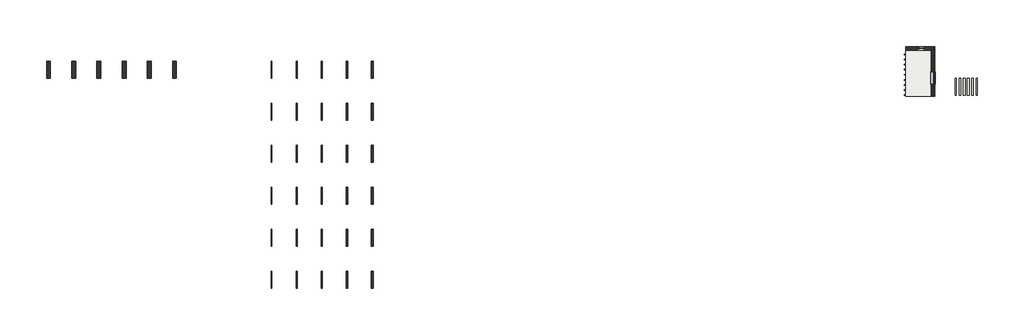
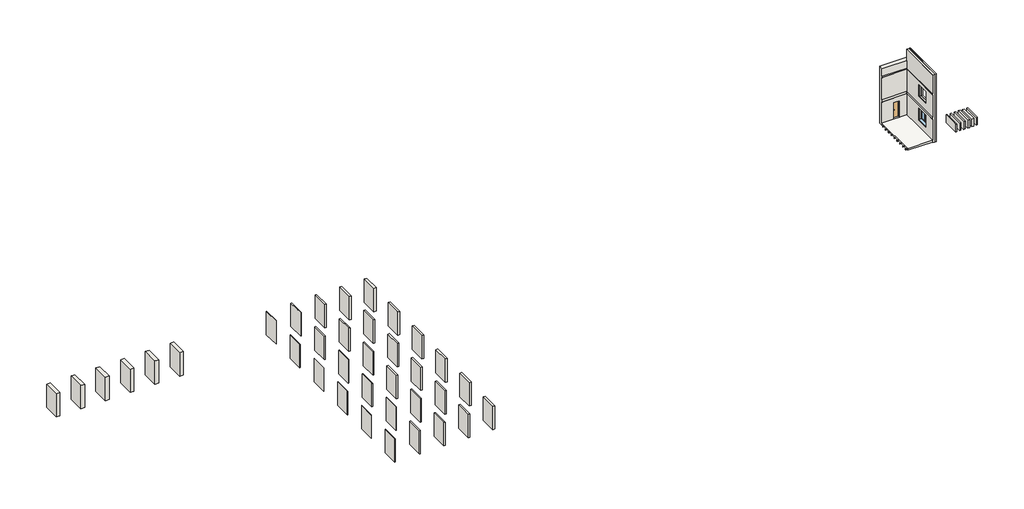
# One storey: 44 walls, 9 beams, 2 windows, 1 door, 1 slab.
"""IFC4 building model written with IfcOpenShell, lengths in millimetres."""

from ifc_helpers import new_model, si_unit, frame, origin, origin_with_axes, place, context, project, spatial, polyline, outline, extrude, faceted_brep, transform, mapped, element, save
from components import beam_0ae76daf, door_09ff0dbc, window_53c761ac, window_832654c1

model = new_model("IFC4")

# Units and contexts
model_context = context("Model", 3, world=origin())
ifc_project = project(units=[si_unit("LENGTHUNIT", "METRE", prefix="MILLI")], contexts=[model_context])

# Site, building, storey
site = spatial("IfcSite", under=ifc_project)
building = spatial("IfcBuilding", under=site)
storey = spatial("IfcBuildingStorey", under=building, Name="Этаж 1", Elevation=0.0)

# Beams
placement = place(None, origin())
beam_shape = beam_0ae76daf(model_context)
element("IfcBeam", 1, ObjectType="Мерные пиломатериалы : 50х130", at=placement, inside=storey, context=model_context, shape_type="MappedRepresentation", body=[
    mapped(beam_shape, transform((36792.721519, 4771.7721519, -115.0), x_axis=(1.0, 0.0, 0.0), y_axis=(0.0, 1.0, 0.0), z_axis=(0.0, 0.0, 1.0))),
])
element("IfcBeam", 2, ObjectType="Мерные пиломатериалы : 50х130", at=placement, inside=storey, context=model_context, shape_type="MappedRepresentation", body=[
    mapped(beam_shape, transform((36792.721519, 4171.7721519, -115.0), x_axis=(1.0, 0.0, 0.0), y_axis=(0.0, 1.0, 0.0), z_axis=(0.0, 0.0, 1.0))),
])
element("IfcBeam", 3, ObjectType="Мерные пиломатериалы : 50х130", at=placement, inside=storey, context=model_context, shape_type="MappedRepresentation", body=[
    mapped(beam_shape, transform((36792.721519, 3571.7721519, -115.0), x_axis=(1.0, 0.0, 0.0), y_axis=(0.0, 1.0, 0.0), z_axis=(0.0, 0.0, 1.0))),
])
element("IfcBeam", 4, ObjectType="Мерные пиломатериалы : 50х130", at=placement, inside=storey, context=model_context, shape_type="MappedRepresentation", body=[
    mapped(beam_shape, transform((36792.721519, 2971.7721519, -115.0), x_axis=(1.0, 0.0, 0.0), y_axis=(0.0, 1.0, 0.0), z_axis=(0.0, 0.0, 1.0))),
])
element("IfcBeam", 5, ObjectType="Мерные пиломатериалы : 50х130", at=placement, inside=storey, context=model_context, shape_type="MappedRepresentation", body=[
    mapped(beam_shape, transform((36792.721519, 2371.7721519, -115.0), x_axis=(1.0, 0.0, 0.0), y_axis=(0.0, 1.0, 0.0), z_axis=(0.0, 0.0, 1.0))),
])
element("IfcBeam", 6, ObjectType="Мерные пиломатериалы : 50х130", at=placement, inside=storey, context=model_context, shape_type="MappedRepresentation", body=[
    mapped(beam_shape, transform((36792.721519, 1771.7721519, -115.0), x_axis=(1.0, 0.0, 0.0), y_axis=(0.0, 1.0, 0.0), z_axis=(0.0, 0.0, 1.0))),
])
element("IfcBeam", 7, ObjectType="Мерные пиломатериалы : 50х130", at=placement, inside=storey, context=model_context, shape_type="MappedRepresentation", body=[
    mapped(beam_shape, transform((36792.721519, 1171.7721519, -115.0), x_axis=(1.0, 0.0, 0.0), y_axis=(0.0, 1.0, 0.0), z_axis=(0.0, 0.0, 1.0))),
])
element("IfcBeam", 8, ObjectType="Мерные пиломатериалы : 50х130", at=placement, inside=storey, context=model_context, shape_type="MappedRepresentation", body=[
    mapped(beam_shape, transform((36792.721519, 571.7721519, -115.0), x_axis=(1.0, 0.0, 0.0), y_axis=(0.0, 1.0, 0.0), z_axis=(0.0, 0.0, 1.0))),
])
element("IfcBeam", 9, ObjectType="Мерные пиломатериалы : 50х130", at=placement, inside=storey, context=model_context, shape_type="MappedRepresentation", body=[
    mapped(beam_shape, transform((36792.721519, -28.2278481, -115.0), x_axis=(1.0, 0.0, 0.0), y_axis=(0.0, 1.0, 0.0), z_axis=(0.0, 0.0, 1.0))),
])

# Door
door_shape = door_09ff0dbc(model_context)
element("IfcDoor", 10, ObjectType="Дверь однопольная : дерев.внутр.глух 8х21 Л", at=placement, inside=storey, context=model_context, shape_type="MappedRepresentation", body=[
    mapped(door_shape, transform((37147.721519, 5499.2721519, 0.0), x_axis=(1.0, 0.0, 0.0), y_axis=(0.0, 1.0, 0.0), z_axis=(0.0, 0.0, 1.0))),
])

# Slab
element("IfcSlab", 11, ObjectType="Пол по деревянным лагам по грунту 222мм (Изоляция ЭКОВЕР ЛАЙТ 40 100мм)", at=placement, inside=storey, context=model_context, shape_type="Brep", body=[
    faceted_brep([(35367.721519, 5291.7721519, -222.0), (38417.721519, 5291.7721519, -222.0), (38417.721519, 5271.7721519, -222.0), (38417.721519, -168.2278481, -222.0), (38397.721519, -168.2278481, -222.0), (35367.721519, -168.2278481, -222.0), (35367.721519, 5271.7721519, -222.0), (35367.721519, 5291.7721519, 0.0), (35367.721519, 5271.7721519, 0.0), (35367.721519, -168.2278481, 0.0), (38397.721519, -168.2278481, 0.0), (38417.721519, -168.2278481, 0.0), (38417.721519, 5271.7721519, 0.0), (38417.721519, 5291.7721519, 0.0), (37547.721519, 5291.7721519, 0.0), (36747.721519, 5291.7721519, 0.0)], [[[0, 1, 2, 3, 4, 5, 6]], [[7, 8, 9, 10, 11, 12, 13, 14, 15]], [[1, 0, 7, 15, 14, 13]], [[3, 2, 1, 13, 12, 11]], [[5, 4, 3, 11, 10, 9]], [[0, 6, 5, 9, 8, 7]]]),
])

# Walls
element("IfcWall", 12, ObjectType="Утеплитель 50мм (ЭКОВЕР ЛАЙТ  30)", at=placement, inside=storey, context=model_context, shape_type="SweptSolid", body=[
    extrude(outline(polyline([(-40107.278481, 1971.7721519), (-40107.278481, 3971.7721519), (-40057.278481, 3971.7721519), (-40057.278481, 1971.7721519), (-40107.278481, 1971.7721519)])), origin_with_axes(), (0.0, 0.0, 1.0), 3000.0),
])
element("IfcWall", 13, ObjectType="Фасадная система с отделкой кирпичем 455мм (Изоляция ЭКОВЕР ЛАЙТ 45 50мм)", at=placement, inside=storey, context=model_context, shape_type="Brep", body=[
    faceted_brep([(38852.721519, 5726.7721519, -300.0), (35367.721519, 5726.7721519, -300.0), (35367.721519, 5726.7721519, 7000.0), (38852.721519, 5726.7721519, 7000.0), (37547.721519, 5726.7721519, 2100.0), (36747.721519, 5726.7721519, 2100.0), (36747.721519, 5726.7721519, 0.0), (37547.721519, 5726.7721519, 0.0), (35367.721519, 5271.7721519, -300.0), (38397.721519, 5271.7721519, -300.0), (38852.721519, 5271.7721519, -300.0), (38852.721519, 5271.7721519, 7000.0), (35367.721519, 5271.7721519, 7000.0), (35367.721519, 5271.7721519, 6000.0), (38397.721519, 5271.7721519, 6000.0), (38417.721519, 5271.7721519, 6000.0), (38417.721519, 5271.7721519, 5830.0), (38397.721519, 5271.7721519, 5830.0), (35367.721519, 5271.7721519, 5830.0), (35367.721519, 5271.7721519, 3000.0), (38397.721519, 5271.7721519, 3000.0), (38417.721519, 5271.7721519, 3000.0), (38417.721519, 5271.7721519, 2680.0), (38397.721519, 5271.7721519, 2680.0), (35367.721519, 5271.7721519, 2680.0), (35367.721519, 5271.7721519, 0.0), (36747.721519, 5271.7721519, 0.0), (36747.721519, 5271.7721519, 2100.0), (37547.721519, 5271.7721519, 2100.0), (37547.721519, 5271.7721519, 0.0), (38397.721519, 5271.7721519, 0.0), (38417.721519, 5271.7721519, 0.0), (38417.721519, 5271.7721519, -222.0), (38397.721519, 5271.7721519, -222.0), (35367.721519, 5271.7721519, -222.0), (38417.721519, 5291.7721519, -222.0), (35367.721519, 5291.7721519, -222.0), (35367.721519, 5291.7721519, 0.0), (36747.721519, 5291.7721519, 0.0), (38417.721519, 5291.7721519, 0.0), (37547.721519, 5291.7721519, 0.0), (38417.721519, 5291.7721519, 2680.0), (35367.721519, 5291.7721519, 2680.0), (35367.721519, 5291.7721519, 3000.0), (38417.721519, 5291.7721519, 3000.0), (38417.721519, 5291.7721519, 5830.0), (35367.721519, 5291.7721519, 5830.0), (35367.721519, 5291.7721519, 6000.0), (38417.721519, 5291.7721519, 6000.0)], [[[0, 1, 2, 3], [4, 5, 6, 7]], [[8, 9, 10, 11, 12, 13, 14, 15, 16, 17, 18, 19, 20, 21, 22, 23, 24, 25, 26, 27, 28, 29, 30, 31, 32, 33, 34]], [[0, 3, 11, 10]], [[35, 36, 34, 33, 32]], [[26, 25, 37, 38]], [[39, 31, 30, 29, 40]], [[36, 35, 39, 40, 38, 37]], [[39, 35, 32, 31]], [[41, 42, 24, 23, 22]], [[43, 44, 21, 20, 19]], [[42, 41, 44, 43]], [[44, 41, 22, 21]], [[45, 46, 18, 17, 16]], [[47, 48, 15, 14, 13]], [[46, 45, 48, 47]], [[48, 45, 16, 15]], [[27, 5, 4, 28]], [[7, 6, 38, 40]], [[5, 27, 26, 38, 6]], [[28, 4, 7, 40, 29]], [[1, 0, 10, 9, 8]], [[2, 1, 8, 34, 36, 37, 25, 24, 42, 43, 19, 18, 46, 47, 13, 12]], [[3, 2, 12, 11]]]),
])
element("IfcWall", 14, ObjectType="Утеплитель 100мм (ЭКОВЕР ЛАЙТ  30)", at=placement, inside=storey, context=model_context, shape_type="SweptSolid", body=[
    extrude(outline(polyline([(-37132.278481, 1971.7721519), (-37132.278481, 3971.7721519), (-37032.278481, 3971.7721519), (-37032.278481, 1971.7721519), (-37132.278481, 1971.7721519)])), origin_with_axes(), (0.0, 0.0, 1.0), 3000.0),
])
element("IfcWall", 15, ObjectType="Утеплитель 150мм (ЭКОВЕР ЛАЙТ  30)", at=placement, inside=storey, context=model_context, shape_type="SweptSolid", body=[
    extrude(outline(polyline([(-34157.278481, 1971.7721519), (-34157.278481, 3971.7721519), (-34007.278481, 3971.7721519), (-34007.278481, 1971.7721519), (-34157.278481, 1971.7721519)])), origin_with_axes(), (0.0, 0.0, 1.0), 3000.0),
])
element("IfcWall", 16, ObjectType="Утеплитель 200мм (ЭКОВЕР ЛАЙТ  30)", at=placement, inside=storey, context=model_context, shape_type="SweptSolid", body=[
    extrude(outline(polyline([(-31182.278481, 1971.7721519), (-31182.278481, 3971.7721519), (-30982.278481, 3971.7721519), (-30982.278481, 1971.7721519), (-31182.278481, 1971.7721519)])), origin_with_axes(), (0.0, 0.0, 1.0), 3000.0),
])
element("IfcWall", 17, ObjectType="Утеплитель 250мм (ЭКОВЕР ЛАЙТ  30)", at=placement, inside=storey, context=model_context, shape_type="SweptSolid", body=[
    extrude(outline(polyline([(-28207.278481, 1971.7721519), (-28207.278481, 3971.7721519), (-27957.278481, 3971.7721519), (-27957.278481, 1971.7721519), (-28207.278481, 1971.7721519)])), origin_with_axes(), (0.0, 0.0, 1.0), 3000.0),
])
element("IfcWall", 18, ObjectType="Утеплитель 50мм (ЭКОВЕР ЛАЙТ  35)", at=placement, inside=storey, context=model_context, shape_type="SweptSolid", body=[
    extrude(outline(polyline([(-40107.278481, -3028.2278481), (-40107.278481, -1028.2278481), (-40057.278481, -1028.2278481), (-40057.278481, -3028.2278481), (-40107.278481, -3028.2278481)])), origin_with_axes(), (0.0, 0.0, 1.0), 3000.0),
])
element("IfcWall", 19, ObjectType="Утеплитель 100мм (ЭКОВЕР ЛАЙТ  35)", at=placement, inside=storey, context=model_context, shape_type="SweptSolid", body=[
    extrude(outline(polyline([(-37132.278481, -3028.2278481), (-37132.278481, -1028.2278481), (-37032.278481, -1028.2278481), (-37032.278481, -3028.2278481), (-37132.278481, -3028.2278481)])), origin_with_axes(), (0.0, 0.0, 1.0), 3000.0),
])
element("IfcWall", 20, ObjectType="Утеплитель 150мм (ЭКОВЕР ЛАЙТ  35)", at=placement, inside=storey, context=model_context, shape_type="SweptSolid", body=[
    extrude(outline(polyline([(-34157.278481, -3028.2278481), (-34157.278481, -1028.2278481), (-34007.278481, -1028.2278481), (-34007.278481, -3028.2278481), (-34157.278481, -3028.2278481)])), origin_with_axes(), (0.0, 0.0, 1.0), 3000.0),
])
element("IfcWall", 21, ObjectType="Утеплитель 200мм (ЭКОВЕР ЛАЙТ  35)", at=placement, inside=storey, context=model_context, shape_type="SweptSolid", body=[
    extrude(outline(polyline([(-31182.278481, -3028.2278481), (-31182.278481, -1028.2278481), (-30982.278481, -1028.2278481), (-30982.278481, -3028.2278481), (-31182.278481, -3028.2278481)])), origin_with_axes(), (0.0, 0.0, 1.0), 3000.0),
])
element("IfcWall", 22, ObjectType="Утеплитель 250мм (ЭКОВЕР ЛАЙТ  35)", at=placement, inside=storey, context=model_context, shape_type="SweptSolid", body=[
    extrude(outline(polyline([(-28207.278481, -3028.2278481), (-28207.278481, -1028.2278481), (-27957.278481, -1028.2278481), (-27957.278481, -3028.2278481), (-28207.278481, -3028.2278481)])), origin_with_axes(), (0.0, 0.0, 1.0), 3000.0),
])
element("IfcWall", 23, ObjectType="Утеплитель 50мм (ЭКОВЕР ЛАЙТ  40)", at=placement, inside=storey, context=model_context, shape_type="SweptSolid", body=[
    extrude(outline(polyline([(-40107.278481, -8028.2278481), (-40107.278481, -6028.2278481), (-40057.278481, -6028.2278481), (-40057.278481, -8028.2278481), (-40107.278481, -8028.2278481)])), origin_with_axes(), (0.0, 0.0, 1.0), 3000.0),
])
element("IfcWall", 24, ObjectType="Утеплитель 100мм (ЭКОВЕР ЛАЙТ  40)", at=placement, inside=storey, context=model_context, shape_type="SweptSolid", body=[
    extrude(outline(polyline([(-37132.278481, -8028.2278481), (-37132.278481, -6028.2278481), (-37032.278481, -6028.2278481), (-37032.278481, -8028.2278481), (-37132.278481, -8028.2278481)])), origin_with_axes(), (0.0, 0.0, 1.0), 3000.0),
])
element("IfcWall", 25, ObjectType="Утеплитель 150мм (ЭКОВЕР ЛАЙТ  40)", at=placement, inside=storey, context=model_context, shape_type="SweptSolid", body=[
    extrude(outline(polyline([(-34157.278481, -8028.2278481), (-34157.278481, -6028.2278481), (-34007.278481, -6028.2278481), (-34007.278481, -8028.2278481), (-34157.278481, -8028.2278481)])), origin_with_axes(), (0.0, 0.0, 1.0), 3000.0),
])
element("IfcWall", 26, ObjectType="Утеплитель 200мм (ЭКОВЕР ЛАЙТ  40)", at=placement, inside=storey, context=model_context, shape_type="SweptSolid", body=[
    extrude(outline(polyline([(-31182.278481, -8028.2278481), (-31182.278481, -6028.2278481), (-30982.278481, -6028.2278481), (-30982.278481, -8028.2278481), (-31182.278481, -8028.2278481)])), origin_with_axes(), (0.0, 0.0, 1.0), 3000.0),
])
element("IfcWall", 27, ObjectType="Утеплитель 250мм (ЭКОВЕР ЛАЙТ  40)", at=placement, inside=storey, context=model_context, shape_type="SweptSolid", body=[
    extrude(outline(polyline([(-28207.278481, -8028.2278481), (-28207.278481, -6028.2278481), (-27957.278481, -6028.2278481), (-27957.278481, -8028.2278481), (-28207.278481, -8028.2278481)])), origin_with_axes(), (0.0, 0.0, 1.0), 3000.0),
])
element("IfcWall", 28, ObjectType="Утеплитель 50мм (ЭКОВЕР ЛАЙТ  45)", at=placement, inside=storey, context=model_context, shape_type="SweptSolid", body=[
    extrude(outline(polyline([(-40107.278481, -13028.2278481), (-40107.278481, -11028.2278481), (-40057.278481, -11028.2278481), (-40057.278481, -13028.2278481), (-40107.278481, -13028.2278481)])), origin_with_axes(), (0.0, 0.0, 1.0), 3000.0),
])
element("IfcWall", 29, ObjectType="Утеплитель 100мм (ЭКОВЕР ЛАЙТ  45)", at=placement, inside=storey, context=model_context, shape_type="SweptSolid", body=[
    extrude(outline(polyline([(-37132.278481, -13028.2278481), (-37132.278481, -11028.2278481), (-37032.278481, -11028.2278481), (-37032.278481, -13028.2278481), (-37132.278481, -13028.2278481)])), origin_with_axes(), (0.0, 0.0, 1.0), 3000.0),
])
element("IfcWall", 30, ObjectType="Утеплитель 150мм (ЭКОВЕР ЛАЙТ  45)", at=placement, inside=storey, context=model_context, shape_type="SweptSolid", body=[
    extrude(outline(polyline([(-34157.278481, -13028.2278481), (-34157.278481, -11028.2278481), (-34007.278481, -11028.2278481), (-34007.278481, -13028.2278481), (-34157.278481, -13028.2278481)])), origin_with_axes(), (0.0, 0.0, 1.0), 3000.0),
])
element("IfcWall", 31, ObjectType="Утеплитель 200мм (ЭКОВЕР ЛАЙТ  45)", at=placement, inside=storey, context=model_context, shape_type="SweptSolid", body=[
    extrude(outline(polyline([(-31182.278481, -13028.2278481), (-31182.278481, -11028.2278481), (-30982.278481, -11028.2278481), (-30982.278481, -13028.2278481), (-31182.278481, -13028.2278481)])), origin_with_axes(), (0.0, 0.0, 1.0), 3000.0),
])
element("IfcWall", 32, ObjectType="Утеплитель 250мм (ЭКОВЕР ЛАЙТ  45)", at=placement, inside=storey, context=model_context, shape_type="SweptSolid", body=[
    extrude(outline(polyline([(-28207.278481, -13028.2278481), (-28207.278481, -11028.2278481), (-27957.278481, -11028.2278481), (-27957.278481, -13028.2278481), (-28207.278481, -13028.2278481)])), origin_with_axes(), (0.0, 0.0, 1.0), 3000.0),
])
element("IfcWall", 33, ObjectType="Утеплитель 50мм (ЭКОВЕР СТАНДАРТ  50)", at=placement, inside=storey, context=model_context, shape_type="SweptSolid", body=[
    extrude(outline(polyline([(-40107.278481, -18028.2278481), (-40107.278481, -16028.2278481), (-40057.278481, -16028.2278481), (-40057.278481, -18028.2278481), (-40107.278481, -18028.2278481)])), origin_with_axes(), (0.0, 0.0, 1.0), 3000.0),
])
element("IfcWall", 34, ObjectType="Утеплитель 100мм (ЭКОВЕР СТАНДАРТ  50)", at=placement, inside=storey, context=model_context, shape_type="SweptSolid", body=[
    extrude(outline(polyline([(-37132.278481, -18028.2278481), (-37132.278481, -16028.2278481), (-37032.278481, -16028.2278481), (-37032.278481, -18028.2278481), (-37132.278481, -18028.2278481)])), origin_with_axes(), (0.0, 0.0, 1.0), 3000.0),
])
element("IfcWall", 35, ObjectType="Утеплитель 150мм (ЭКОВЕР СТАНДАРТ  50)", at=placement, inside=storey, context=model_context, shape_type="SweptSolid", body=[
    extrude(outline(polyline([(-34157.278481, -18028.2278481), (-34157.278481, -16028.2278481), (-34007.278481, -16028.2278481), (-34007.278481, -18028.2278481), (-34157.278481, -18028.2278481)])), origin_with_axes(), (0.0, 0.0, 1.0), 3000.0),
])
element("IfcWall", 36, ObjectType="Утеплитель 200мм (ЭКОВЕР СТАНДАРТ  50)", at=placement, inside=storey, context=model_context, shape_type="SweptSolid", body=[
    extrude(outline(polyline([(-31182.278481, -18028.2278481), (-31182.278481, -16028.2278481), (-30982.278481, -16028.2278481), (-30982.278481, -18028.2278481), (-31182.278481, -18028.2278481)])), origin_with_axes(), (0.0, 0.0, 1.0), 3000.0),
])
element("IfcWall", 37, ObjectType="Утеплитель 250мм (ЭКОВЕР СТАНДАРТ  50)", at=placement, inside=storey, context=model_context, shape_type="SweptSolid", body=[
    extrude(outline(polyline([(-28207.278481, -18028.2278481), (-28207.278481, -16028.2278481), (-27957.278481, -16028.2278481), (-27957.278481, -18028.2278481), (-28207.278481, -18028.2278481)])), origin_with_axes(), (0.0, 0.0, 1.0), 3000.0),
])
element("IfcWall", 38, ObjectType="Утеплитель 50мм (ЭКОВЕР СТАНДАРТ  60)", at=placement, inside=storey, context=model_context, shape_type="SweptSolid", body=[
    extrude(outline(polyline([(-40107.278481, -23028.2278481), (-40107.278481, -21028.2278481), (-40057.278481, -21028.2278481), (-40057.278481, -23028.2278481), (-40107.278481, -23028.2278481)])), origin_with_axes(), (0.0, 0.0, 1.0), 3000.0),
])
element("IfcWall", 39, ObjectType="Утеплитель 100мм (ЭКОВЕР СТАНДАРТ  60)", at=placement, inside=storey, context=model_context, shape_type="SweptSolid", body=[
    extrude(outline(polyline([(-37132.278481, -23028.2278481), (-37132.278481, -21028.2278481), (-37032.278481, -21028.2278481), (-37032.278481, -23028.2278481), (-37132.278481, -23028.2278481)])), origin_with_axes(), (0.0, 0.0, 1.0), 3000.0),
])
element("IfcWall", 40, ObjectType="Утеплитель 150мм (ЭКОВЕР СТАНДАРТ  60)", at=placement, inside=storey, context=model_context, shape_type="SweptSolid", body=[
    extrude(outline(polyline([(-34157.278481, -23028.2278481), (-34157.278481, -21028.2278481), (-34007.278481, -21028.2278481), (-34007.278481, -23028.2278481), (-34157.278481, -23028.2278481)])), origin_with_axes(), (0.0, 0.0, 1.0), 3000.0),
])
element("IfcWall", 41, ObjectType="Утеплитель 200мм (ЭКОВЕР СТАНДАРТ  60)", at=placement, inside=storey, context=model_context, shape_type="SweptSolid", body=[
    extrude(outline(polyline([(-31182.278481, -23028.2278481), (-31182.278481, -21028.2278481), (-30982.278481, -21028.2278481), (-30982.278481, -23028.2278481), (-31182.278481, -23028.2278481)])), origin_with_axes(), (0.0, 0.0, 1.0), 3000.0),
])
element("IfcWall", 42, ObjectType="Утеплитель 250мм (ЭКОВЕР СТАНДАРТ  60)", at=placement, inside=storey, context=model_context, shape_type="SweptSolid", body=[
    extrude(outline(polyline([(-28207.278481, -23028.2278481), (-28207.278481, -21028.2278481), (-27957.278481, -21028.2278481), (-27957.278481, -23028.2278481), (-28207.278481, -23028.2278481)])), origin_with_axes(), (0.0, 0.0, 1.0), 3000.0),
])
element("IfcWall", 43, ObjectType="Фасадная система с отделкой кирпичем 455мм (Изоляция ЭКОВЕР СТАНДАРТ 50 50мм)", at=placement, inside=storey, context=model_context, shape_type="SweptSolid", body=[
    extrude(outline(polyline([(-54829.2089758, 1951.7721519), (-54829.2089758, 3951.7721519), (-54374.2089758, 3951.7721519), (-54374.2089758, 1951.7721519), (-54829.2089758, 1951.7721519)])), origin_with_axes(), (0.0, 0.0, 1.0), 3000.0),
])
element("IfcWall", 44, ObjectType="Фасадная система с отделкой кирпичем 455мм (Изоляция ЭКОВЕР СТАНДАРТ 60 50мм)", at=placement, inside=storey, context=model_context, shape_type="SweptSolid", body=[
    extrude(outline(polyline([(-51829.2089758, 1951.7721519), (-51829.2089758, 3951.7721519), (-51374.2089758, 3951.7721519), (-51374.2089758, 1951.7721519), (-51829.2089758, 1951.7721519)])), origin_with_axes(), (0.0, 0.0, 1.0), 3000.0),
])
element("IfcWall", 45, ObjectType="Фасадная система с отделкой кирпичем 455мм (Изоляция ЭКОВЕР ЛАЙТ 45 50мм)", at=placement, inside=storey, context=model_context, shape_type="SweptSolid", body=[
    extrude(outline(polyline([(-57829.2089758, 1951.7721519), (-57829.2089758, 3951.7721519), (-57374.2089758, 3951.7721519), (-57374.2089758, 1951.7721519), (-57829.2089758, 1951.7721519)])), origin_with_axes(), (0.0, 0.0, 1.0), 3000.0),
])
element("IfcWall", 46, ObjectType="Фасадная система с отделкой кирпичем 455мм (Изоляция ЭКОВЕР ЛАЙТ 40 50мм)", at=placement, inside=storey, context=model_context, shape_type="SweptSolid", body=[
    extrude(outline(polyline([(-60829.2089758, 1951.7721519), (-60829.2089758, 3951.7721519), (-60374.2089758, 3951.7721519), (-60374.2089758, 1951.7721519), (-60829.2089758, 1951.7721519)])), origin_with_axes(), (0.0, 0.0, 1.0), 3000.0),
])
element("IfcWall", 47, ObjectType="Фасадная система с отделкой кирпичем 455мм (Изоляция ЭКОВЕР ЛАЙТ 35 50мм)", at=placement, inside=storey, context=model_context, shape_type="SweptSolid", body=[
    extrude(outline(polyline([(-63829.2089758, 1951.7721519), (-63829.2089758, 3951.7721519), (-63374.2089758, 3951.7721519), (-63374.2089758, 1951.7721519), (-63829.2089758, 1951.7721519)])), origin_with_axes(), (0.0, 0.0, 1.0), 3000.0),
])
element("IfcWall", 48, ObjectType="Фасадная система с отделкой кирпичем 455мм (Изоляция ЭКОВЕР ЛАЙТ 30 50мм)", at=placement, inside=storey, context=model_context, shape_type="SweptSolid", body=[
    extrude(outline(polyline([(-66829.2089758, 1951.7721519), (-66829.2089758, 3951.7721519), (-66374.2089758, 3951.7721519), (-66374.2089758, 1951.7721519), (-66829.2089758, 1951.7721519)])), origin_with_axes(), (0.0, 0.0, 1.0), 3000.0),
])
element("IfcWall", 49, ObjectType="Фасадная система с отделкой кирпичем 455мм (Изоляция ЭКОВЕР ЛАЙТ 30 50мм)", at=placement, inside=storey, context=model_context, shape_type="SolidModel", body=[
    faceted_brep([(38852.721519, 2731.7721519, 5400.0), (38852.721519, 1231.7721519, 5400.0), (38732.721519, 1231.7721519, 5400.0), (38732.721519, 2731.7721519, 5400.0), (38732.721519, 2731.7721519, 3900.0), (38852.721519, 2731.7721519, 3900.0), (38732.721519, 1231.7721519, 3900.0), (38852.721519, 1231.7721519, 3900.0), (38852.721519, 2731.7721519, 2400.0), (38852.721519, 1231.7721519, 2400.0), (38732.721519, 1231.7721519, 2400.0), (38732.721519, 2731.7721519, 2400.0), (38732.721519, 2731.7721519, 900.0), (38852.721519, 2731.7721519, 900.0), (38732.721519, 1231.7721519, 900.0), (38852.721519, 1231.7721519, 900.0), (38852.721519, 5606.7721519, -300.0), (38852.721519, -168.2278481, -300.0), (38732.721519, -168.2278481, -300.0), (38732.721519, 5606.7721519, -300.0), (38852.721519, -168.2278481, 7000.0), (38852.721519, -168.2278481, 8400.0), (38732.721519, -168.2278481, 8400.0), (38732.721519, -168.2278481, 7000.0), (38732.721519, 5271.7721519, 8400.0), (38732.721519, 5271.7721519, 7000.0), (38732.721519, 5606.7721519, 7000.0), (38852.721519, 5606.7721519, 7000.0), (38852.721519, 5271.7721519, 7000.0), (38852.721519, 5271.7721519, 8400.0)], [[[0, 1, 2, 3]], [[0, 3, 4, 5]], [[5, 4, 6, 7]], [[2, 1, 7, 6]], [[8, 9, 10, 11]], [[8, 11, 12, 13]], [[13, 12, 14, 15]], [[10, 9, 15, 14]], [[16, 17, 18, 19]], [[18, 17, 20, 21, 22, 23]], [[19, 18, 23, 22, 24, 25, 26], [11, 10, 14, 12], [3, 2, 6, 4]], [[17, 16, 27, 28, 29, 21, 20], [1, 0, 5, 7], [9, 8, 13, 15]], [[27, 26, 25, 28]], [[29, 28, 25, 24]], [[21, 29, 24, 22]], [[27, 16, 19, 26]]]),
    faceted_brep([(38397.721519, 5271.7721519, 6000.0), (38397.721519, -168.2278481, 6000.0), (38397.721519, -168.2278481, 7000.0), (38397.721519, -168.2278481, 8400.0), (38397.721519, 5271.7721519, 8400.0), (38397.721519, 5271.7721519, 7000.0), (38417.721519, 5271.7721519, 6000.0), (38417.721519, -168.2278481, 6000.0), (38417.721519, 5271.7721519, 8400.0), (38417.721519, 5271.7721519, 7000.0), (38417.721519, -168.2278481, 8400.0), (38417.721519, -168.2278481, 7000.0)], [[[0, 1, 2, 3, 4, 5]], [[1, 0, 6, 7]], [[6, 0, 5, 4, 8, 9]], [[7, 6, 9, 8, 10, 11]], [[1, 7, 11, 10, 3, 2]], [[4, 3, 10, 8]]]),
    extrude(outline(polyline([(38397.721519, -168.2278481), (38397.721519, 5271.7721519), (38417.721519, 5271.7721519), (38417.721519, -168.2278481), (38397.721519, -168.2278481)])), frame((0.0, 0.0, -300.0), z_axis=(0.0, 0.0, 1.0), x_axis=(1.0, 0.0, 0.0)), (0.0, 0.0, 1.0), 78.0),
    extrude(outline(polyline([(5271.7721519, 0.0), (-168.2278481, 0.0), (-168.2278481, 2680.0), (5271.7721519, 2680.0), (5271.7721519, 0.0)]), holes=[polyline([(2731.7721519, 2400.0), (1231.7721519, 2400.0), (1231.7721519, 900.0), (2731.7721519, 900.0), (2731.7721519, 2400.0)])]), frame((38397.721519, 0.0, 0.0), z_axis=(1.0, 0.0, 0.0), x_axis=(0.0, 1.0, 0.0)), (0.0, 0.0, 1.0), 20.0),
    extrude(outline(polyline([(5271.7721519, 3000.0), (-168.2278481, 3000.0), (-168.2278481, 5830.0), (5271.7721519, 5830.0), (5271.7721519, 3000.0)]), holes=[polyline([(2731.7721519, 5400.0), (1231.7721519, 5400.0), (1231.7721519, 3900.0), (2731.7721519, 3900.0), (2731.7721519, 5400.0)])]), frame((38397.721519, 0.0, 0.0), z_axis=(1.0, 0.0, 0.0), x_axis=(0.0, 1.0, 0.0)), (0.0, 0.0, 1.0), 20.0),
    faceted_brep([(38732.721519, 1231.7721519, 5400.0), (38717.721519, 1231.7721519, 5400.0), (38717.721519, 2731.7721519, 5400.0), (38732.721519, 2731.7721519, 5400.0), (38717.721519, 2731.7721519, 3900.0), (38732.721519, 2731.7721519, 3900.0), (38717.721519, 1231.7721519, 3900.0), (38732.721519, 1231.7721519, 3900.0), (38732.721519, 1231.7721519, 2400.0), (38717.721519, 1231.7721519, 2400.0), (38717.721519, 2731.7721519, 2400.0), (38732.721519, 2731.7721519, 2400.0), (38717.721519, 2731.7721519, 900.0), (38732.721519, 2731.7721519, 900.0), (38717.721519, 1231.7721519, 900.0), (38732.721519, 1231.7721519, 900.0), (38732.721519, 5591.7721519, -300.0), (38732.721519, -168.2278481, -300.0), (38717.721519, -168.2278481, -300.0), (38717.721519, 5591.7721519, -300.0), (38732.721519, -168.2278481, 7000.0), (38732.721519, -168.2278481, 8400.0), (38717.721519, -168.2278481, 8400.0), (38717.721519, -168.2278481, 7000.0), (38717.721519, 5271.7721519, 8400.0), (38717.721519, 5271.7721519, 7000.0), (38717.721519, 5591.7721519, 7000.0), (38732.721519, 5591.7721519, 7000.0), (38732.721519, 5271.7721519, 7000.0), (38732.721519, 5271.7721519, 8400.0)], [[[0, 1, 2, 3]], [[3, 2, 4, 5]], [[5, 4, 6, 7]], [[1, 0, 7, 6]], [[8, 9, 10, 11]], [[11, 10, 12, 13]], [[13, 12, 14, 15]], [[9, 8, 15, 14]], [[16, 17, 18, 19]], [[18, 17, 20, 21, 22, 23]], [[19, 18, 23, 22, 24, 25, 26], [2, 1, 6, 4], [10, 9, 14, 12]], [[17, 16, 27, 28, 29, 21, 20], [0, 3, 5, 7], [8, 11, 13, 15]], [[27, 26, 25, 28]], [[29, 28, 25, 24]], [[16, 19, 26, 27]], [[21, 29, 24, 22]]]),
    faceted_brep([(38667.721519, 5291.7721519, 7000.0), (38417.721519, 5291.7721519, 7000.0), (38417.721519, 5271.7721519, 7000.0), (38667.721519, 5271.7721519, 7000.0), (38667.721519, 1231.7721519, 5400.0), (38417.721519, 1231.7721519, 5400.0), (38417.721519, 2731.7721519, 5400.0), (38667.721519, 2731.7721519, 5400.0), (38417.721519, 2731.7721519, 3900.0), (38667.721519, 2731.7721519, 3900.0), (38417.721519, 1231.7721519, 3900.0), (38667.721519, 1231.7721519, 3900.0), (38667.721519, 1231.7721519, 2400.0), (38417.721519, 1231.7721519, 2400.0), (38417.721519, 2731.7721519, 2400.0), (38667.721519, 2731.7721519, 2400.0), (38417.721519, 2731.7721519, 900.0), (38667.721519, 2731.7721519, 900.0), (38417.721519, 1231.7721519, 900.0), (38667.721519, 1231.7721519, 900.0), (38667.721519, 5291.7721519, -300.0), (38667.721519, -168.2278481, -300.0), (38417.721519, -168.2278481, -300.0), (38417.721519, 5291.7721519, -300.0), (38667.721519, -168.2278481, 7000.0), (38667.721519, -168.2278481, 8400.0), (38417.721519, -168.2278481, 8400.0), (38417.721519, -168.2278481, 7000.0), (38417.721519, -168.2278481, 6000.0), (38417.721519, -168.2278481, 5830.0), (38417.721519, -168.2278481, 3000.0), (38417.721519, -168.2278481, 2680.0), (38417.721519, -168.2278481, 0.0), (38417.721519, -168.2278481, -222.0), (38667.721519, 5271.7721519, 8400.0), (38417.721519, 5271.7721519, 8400.0)], [[[0, 1, 2, 3]], [[4, 5, 6, 7]], [[7, 6, 8, 9]], [[9, 8, 10, 11]], [[5, 4, 11, 10]], [[12, 13, 14, 15]], [[15, 14, 16, 17]], [[17, 16, 18, 19]], [[13, 12, 19, 18]], [[20, 21, 22, 23]], [[22, 21, 24, 25, 26, 27, 28, 29, 30, 31, 32, 33]], [[21, 20, 0, 3, 34, 25, 24], [4, 7, 9, 11], [12, 15, 17, 19]], [[23, 22, 33, 32, 31, 30, 29, 28, 27, 26, 35, 2, 1], [6, 5, 10, 8], [14, 13, 18, 16]], [[34, 3, 2, 35]], [[20, 23, 1, 0]], [[25, 34, 35, 26]]]),
    faceted_brep([(38717.721519, -168.2278481, -300.0), (38717.721519, 5541.7721519, -300.0), (38717.721519, 5541.7721519, 7000.0), (38717.721519, 5271.7721519, 7000.0), (38717.721519, 5271.7721519, 8400.0), (38717.721519, -168.2278481, 8400.0), (38717.721519, -168.2278481, 7000.0), (38717.721519, 1231.7721519, 2400.0), (38717.721519, 2731.7721519, 2400.0), (38717.721519, 2731.7721519, 900.0), (38717.721519, 1231.7721519, 900.0), (38717.721519, 1231.7721519, 5400.0), (38717.721519, 2731.7721519, 5400.0), (38717.721519, 2731.7721519, 3900.0), (38717.721519, 1231.7721519, 3900.0), (38667.721519, 1231.7721519, 5400.0), (38667.721519, 2731.7721519, 5400.0), (38667.721519, 2731.7721519, 3900.0), (38667.721519, 1231.7721519, 3900.0), (38667.721519, 1231.7721519, 2400.0), (38667.721519, 2731.7721519, 2400.0), (38667.721519, 2731.7721519, 900.0), (38667.721519, 1231.7721519, 900.0), (38667.721519, -168.2278481, -300.0), (38667.721519, 5541.7721519, -300.0), (38667.721519, -168.2278481, 8400.0), (38667.721519, -168.2278481, 7000.0), (38667.721519, 5271.7721519, 8400.0), (38667.721519, 5271.7721519, 7000.0), (38667.721519, 5541.7721519, 7000.0)], [[[0, 1, 2, 3, 4, 5, 6], [7, 8, 9, 10], [11, 12, 13, 14]], [[12, 11, 15, 16]], [[13, 12, 16, 17]], [[14, 13, 17, 18]], [[11, 14, 18, 15]], [[8, 7, 19, 20]], [[9, 8, 20, 21]], [[10, 9, 21, 22]], [[7, 10, 22, 19]], [[1, 0, 23, 24]], [[0, 6, 5, 25, 26, 23]], [[24, 23, 26, 25, 27, 28, 29], [16, 15, 18, 17], [20, 19, 22, 21]], [[2, 29, 28, 3]], [[4, 3, 28, 27]], [[1, 24, 29, 2]], [[5, 4, 27, 25]]]),
])
element("IfcWall", 50, ObjectType="Утеплитель 100мм (ЭКОВЕР ЛАЙТ  30)", at=placement, inside=storey, context=model_context, shape_type="SweptSolid", body=[
    extrude(outline(polyline([(41279.0579845, -58.9566541), (41279.0579845, 1941.0433459), (41379.0579845, 1941.0433459), (41379.0579845, -58.9566541), (41279.0579845, -58.9566541)])), origin_with_axes(), (0.0, 0.0, 1.0), 1000.0),
])
element("IfcWall", 51, ObjectType="Утеплитель 150мм (ЭКОВЕР ЛАЙТ  35)", at=placement, inside=storey, context=model_context, shape_type="SweptSolid", body=[
    extrude(outline(polyline([(41754.0579845, -58.9566541), (41754.0579845, 1941.0433459), (41904.0579845, 1941.0433459), (41904.0579845, -58.9566541), (41754.0579845, -58.9566541)])), origin_with_axes(), (0.0, 0.0, 1.0), 1000.0),
])
element("IfcWall", 52, ObjectType="Утеплитель 200мм (ЭКОВЕР ЛАЙТ  40)", at=placement, inside=storey, context=model_context, shape_type="SweptSolid", body=[
    extrude(outline(polyline([(42229.0579845, -58.9566541), (42229.0579845, 1941.0433459), (42429.0579845, 1941.0433459), (42429.0579845, -58.9566541), (42229.0579845, -58.9566541)])), origin_with_axes(), (0.0, 0.0, 1.0), 1000.0),
])
element("IfcWall", 53, ObjectType="Утеплитель 250мм (ЭКОВЕР ЛАЙТ  45)", at=placement, inside=storey, context=model_context, shape_type="SweptSolid", body=[
    extrude(outline(polyline([(42704.0579845, -58.9566541), (42704.0579845, 1941.0433459), (42954.0579845, 1941.0433459), (42954.0579845, -58.9566541), (42704.0579845, -58.9566541)])), origin_with_axes(), (0.0, 0.0, 1.0), 1000.0),
])
element("IfcWall", 54, ObjectType="Утеплитель 200мм (ЭКОВЕР СТАНДАРТ  50)", at=placement, inside=storey, context=model_context, shape_type="SweptSolid", body=[
    extrude(outline(polyline([(43229.0579845, -58.9566541), (43229.0579845, 1941.0433459), (43429.0579845, 1941.0433459), (43429.0579845, -58.9566541), (43229.0579845, -58.9566541)])), origin_with_axes(), (0.0, 0.0, 1.0), 1000.0),
])
element("IfcWall", 55, ObjectType="Утеплитель 150мм (ЭКОВЕР СТАНДАРТ  60)", at=placement, inside=storey, context=model_context, shape_type="SweptSolid", body=[
    extrude(outline(polyline([(43754.0579845, -58.9566541), (43754.0579845, 1941.0433459), (43904.0579845, 1941.0433459), (43904.0579845, -58.9566541), (43754.0579845, -58.9566541)])), origin_with_axes(), (0.0, 0.0, 1.0), 1000.0),
])

# Windows
window_shape = window_53c761ac(model_context)
element("IfcWindow", 56, ObjectType="Окно_2створки : 1460х1460 (створка и глухое)", at=placement, inside=storey, context=model_context, shape_type="MappedRepresentation", body=[
    mapped(window_shape, transform((38625.221519, 1981.7721519, 0.0), x_axis=(0.0, -1.0, 0.0), y_axis=(1.0, 0.0, 0.0), z_axis=(0.0, 0.0, 1.0))),
])
window_2_shape = window_832654c1(model_context)
element("IfcWindow", 57, ObjectType="Окна_Подоконник : ПВХ", at=placement, inside=storey, context=model_context, shape_type="MappedRepresentation", body=[
    mapped(window_2_shape, transform((38727.721519, 1981.7721519, 900.0), x_axis=(0.0, -1.0, 0.0), y_axis=(1.0, 0.0, 0.0), z_axis=(0.0, 0.0, 1.0))),
])

save(model, "model.ifc")
